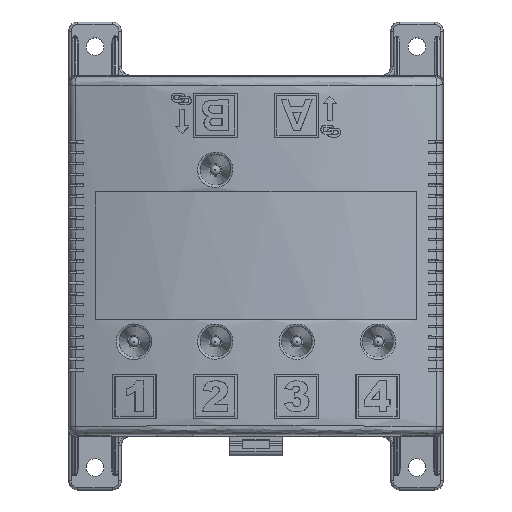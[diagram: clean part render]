
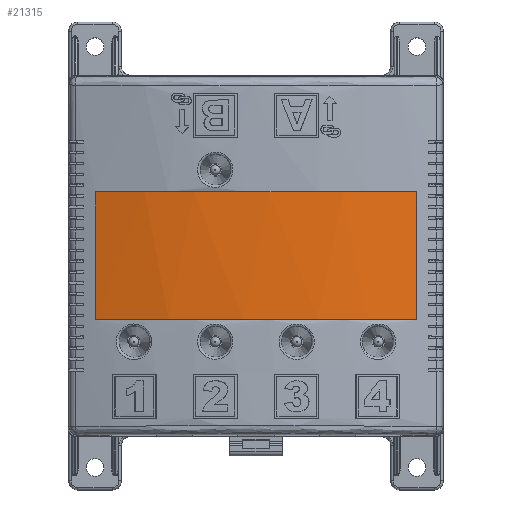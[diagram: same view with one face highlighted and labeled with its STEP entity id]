
A CAD part, top view. The second image highlights one B-rep face of the part: STEP entity #21315.
In plain terms, the highlighted cylindrical face has radius 163.525 mm (diameter 327.05 mm), a partial arc.
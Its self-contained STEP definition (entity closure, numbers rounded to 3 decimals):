
#527=CYLINDRICAL_SURFACE('',#23157,163.525);
#9223=ORIENTED_EDGE('',*,*,#13810,.T.);
#9224=ORIENTED_EDGE('',*,*,#13811,.T.);
#9225=ORIENTED_EDGE('',*,*,#13806,.T.);
#9226=ORIENTED_EDGE('',*,*,#13808,.T.);
#13806=EDGE_CURVE('',#16285,#16286,#16935,.T.);
#13808=EDGE_CURVE('',#16286,#16287,#16937,.T.);
#13810=EDGE_CURVE('',#16287,#16288,#16939,.T.);
#13811=EDGE_CURVE('',#16288,#16285,#16940,.T.);
#16285=VERTEX_POINT('',#40892);
#16286=VERTEX_POINT('',#40897);
#16287=VERTEX_POINT('',#40910);
#16288=VERTEX_POINT('',#40920);
#16935=B_SPLINE_CURVE_WITH_KNOTS('',3,(#40898,#40899,#40900,#40901,#40902,
#40903,#40904),.UNSPECIFIED.,.F.,.F.,(4,1,1,1,4),(0.,0.25,0.5,0.75,1.),
 .UNSPECIFIED.);
#16937=B_SPLINE_CURVE_WITH_KNOTS('',3,(#40911,#40912,#40913,#40914),
 .UNSPECIFIED.,.F.,.F.,(4,4),(0.,1.),.UNSPECIFIED.);
#16939=B_SPLINE_CURVE_WITH_KNOTS('',3,(#40921,#40922,#40923,#40924,#40925,
#40926,#40927),.UNSPECIFIED.,.F.,.F.,(4,1,1,1,4),(0.,0.25,0.5,0.75,1.),
 .UNSPECIFIED.);
#16940=B_SPLINE_CURVE_WITH_KNOTS('',3,(#40929,#40930,#40931,#40932),
 .UNSPECIFIED.,.F.,.F.,(4,4),(0.,1.),.UNSPECIFIED.);
#18175=EDGE_LOOP('',(#9223,#9224,#9225,#9226));
#19523=FACE_BOUND('',#18175,.T.);
#21315=ADVANCED_FACE('',(#19523),#527,.T.);
#23157=AXIS2_PLACEMENT_3D('',#40933,#27787,#27788);
#27787=DIRECTION('',(0.,1.,0.));
#27788=DIRECTION('',(0.,0.,1.));
#40892=CARTESIAN_POINT('',(-46.172,-18.415,16.841));
#40897=CARTESIAN_POINT('',(46.172,-18.415,16.841));
#40898=CARTESIAN_POINT('',(-46.172,-18.415,16.841));
#40899=CARTESIAN_POINT('',(-38.675,-18.415,19.048));
#40900=CARTESIAN_POINT('',(-23.41,-18.415,22.375));
#40901=CARTESIAN_POINT('',(0.,-18.415,24.055));
#40902=CARTESIAN_POINT('',(23.41,-18.415,22.375));
#40903=CARTESIAN_POINT('',(38.674,-18.415,19.048));
#40904=CARTESIAN_POINT('',(46.172,-18.415,16.841));
#40910=CARTESIAN_POINT('',(46.172,18.415,16.841));
#40911=CARTESIAN_POINT('',(46.172,-18.415,16.841));
#40912=CARTESIAN_POINT('',(46.172,-6.138,16.841));
#40913=CARTESIAN_POINT('',(46.172,6.138,16.841));
#40914=CARTESIAN_POINT('',(46.172,18.415,16.841));
#40920=CARTESIAN_POINT('',(-46.172,18.415,16.841));
#40921=CARTESIAN_POINT('',(46.172,18.415,16.841));
#40922=CARTESIAN_POINT('',(38.675,18.415,19.048));
#40923=CARTESIAN_POINT('',(23.41,18.415,22.375));
#40924=CARTESIAN_POINT('',(0.,18.415,24.055));
#40925=CARTESIAN_POINT('',(-23.41,18.415,22.375));
#40926=CARTESIAN_POINT('',(-38.674,18.415,19.048));
#40927=CARTESIAN_POINT('',(-46.172,18.415,16.841));
#40929=CARTESIAN_POINT('',(-46.172,18.415,16.841));
#40930=CARTESIAN_POINT('',(-46.172,6.138,16.841));
#40931=CARTESIAN_POINT('',(-46.172,-6.138,16.841));
#40932=CARTESIAN_POINT('',(-46.172,-18.415,16.841));
#40933=CARTESIAN_POINT('',(0.,-151.768,-140.03));
